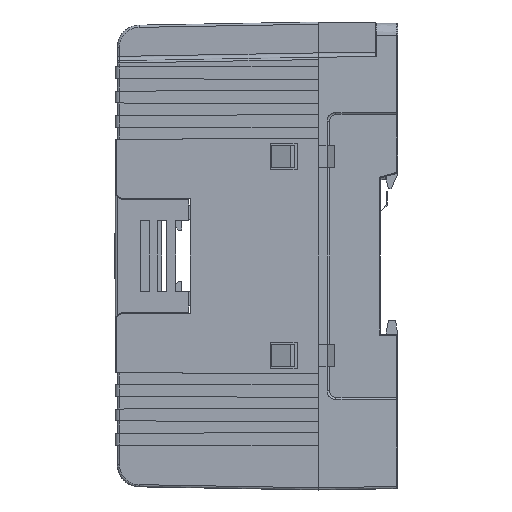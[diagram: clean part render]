
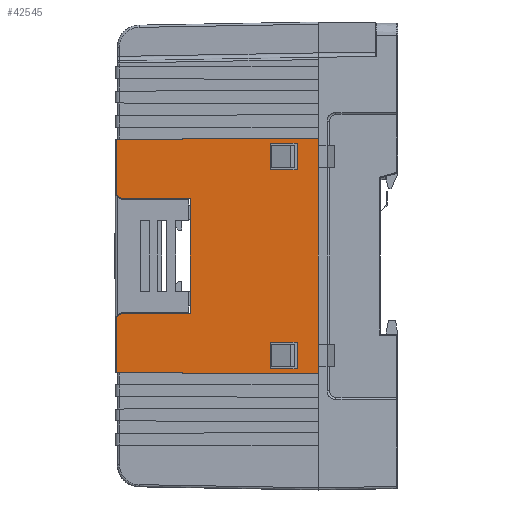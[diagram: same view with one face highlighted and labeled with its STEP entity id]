
A CAD part, left-side view. The second image highlights one B-rep face of the part: STEP entity #42545.
In plain terms, the highlighted planar face has unit normal (-1, 0.018, 0).
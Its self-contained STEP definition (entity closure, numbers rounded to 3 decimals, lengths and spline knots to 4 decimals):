
#23385=CARTESIAN_POINT('',(-2.2562,2.5119,
1.0387));
#23653=CARTESIAN_POINT('',(-2.2562,2.5119,
-1.0438));
#24592=DIRECTION('',(-0.017,-1.,0.));
#24593=VECTOR('',#24592,0.2363);
#24594=CARTESIAN_POINT('',(-2.2803,1.1338,
-1.0065));
#24595=LINE('',#24594,#24593);
#24596=DIRECTION('',(0.,0.,1.));
#24597=VECTOR('',#24596,0.2362);
#24598=CARTESIAN_POINT('',(-2.2844,0.8976,
-1.0065));
#24599=LINE('',#24598,#24597);
#24600=DIRECTION('',(0.017,1.,0.));
#24601=VECTOR('',#24600,0.2363);
#24602=CARTESIAN_POINT('',(-2.2844,0.8976,
-0.7703));
#24603=LINE('',#24602,#24601);
#24604=DIRECTION('',(0.,0.,-1.));
#24605=VECTOR('',#24604,0.2362);
#24606=CARTESIAN_POINT('',(-2.2803,1.1338,
-0.7703));
#24607=LINE('',#24606,#24605);
#24608=DIRECTION('',(-0.017,-1.,0.));
#24609=VECTOR('',#24608,0.2363);
#24610=CARTESIAN_POINT('',(-2.2803,1.1338,
0.7652));
#24611=LINE('',#24610,#24609);
#24612=DIRECTION('',(0.,0.,1.));
#24613=VECTOR('',#24612,0.2362);
#24614=CARTESIAN_POINT('',(-2.2844,0.8976,
0.7652));
#24615=LINE('',#24614,#24613);
#24616=DIRECTION('',(0.017,1.,0.));
#24617=VECTOR('',#24616,0.2363);
#24618=CARTESIAN_POINT('',(-2.2844,0.8976,
1.0014));
#24619=LINE('',#24618,#24617);
#24620=DIRECTION('',(0.,0.,-1.));
#24621=VECTOR('',#24620,0.2362);
#24622=CARTESIAN_POINT('',(-2.2803,1.1338,
1.0014));
#24623=LINE('',#24622,#24621);
#24720=DIRECTION('',(0.,0.,1.));
#24721=VECTOR('',#24720,1.0236);
#24722=CARTESIAN_POINT('',(-2.2678,1.8504,
-0.5144));
#24723=LINE('',#24722,#24721);
#24724=DIRECTION('',(-0.014,-0.806,-0.591));
#24725=VECTOR('',#24724,0.0545);
#24726=CARTESIAN_POINT('',(-2.2562,2.5119,
0.5469));
#24727=LINE('',#24726,#24725);
#24728=DIRECTION('',(0.,0.,-1.));
#24729=VECTOR('',#24728,0.4918);
#24730=CARTESIAN_POINT('',(-2.2562,2.5119,
1.0387));
#24731=LINE('',#24730,#24729);
#24732=DIRECTION('',(0.017,1.,-0.003));
#24733=VECTOR('',#24732,1.8036);
#24734=CARTESIAN_POINT('',(-2.2877,0.7086,
1.045));
#24735=LINE('',#24734,#24733);
#24736=DIRECTION('',(0.,0.,-1.));
#24737=VECTOR('',#24736,2.0951);
#24738=CARTESIAN_POINT('',(-2.2877,0.7086,
1.045));
#24739=LINE('',#24738,#24737);
#24740=DIRECTION('',(0.017,1.,0.003));
#24741=VECTOR('',#24740,1.8036);
#24742=CARTESIAN_POINT('',(-2.2877,0.7086,
-1.0501));
#24743=LINE('',#24742,#24741);
#24744=DIRECTION('',(0.,0.,-1.));
#24745=VECTOR('',#24744,0.4918);
#24746=CARTESIAN_POINT('',(-2.2562,2.5119,
-0.552));
#24747=LINE('',#24746,#24745);
#24748=DIRECTION('',(0.014,0.806,-0.591));
#24749=VECTOR('',#24748,0.0545);
#24750=CARTESIAN_POINT('',(-2.257,2.4679,
-0.5197));
#24751=LINE('',#24750,#24749);
#31861=DIRECTION('',(-0.017,-1.,-0.009));
#31862=VECTOR('',#31861,0.6177);
#31863=CARTESIAN_POINT('',(-2.257,2.4679,
0.5147));
#31864=LINE('',#31863,#31862);
#31929=CARTESIAN_POINT('',(-2.2562,2.5119,
0.5469));
#32003=DIRECTION('',(0.017,1.,-0.009));
#32004=VECTOR('',#32003,0.6177);
#32005=CARTESIAN_POINT('',(-2.2678,1.8504,
-0.5144));
#32006=LINE('',#32005,#32004);
#32047=CARTESIAN_POINT('',(-2.2562,2.5119,
-0.552));
#35121=CARTESIAN_POINT('',(-2.2803,1.1338,
-1.0065));
#35122=CARTESIAN_POINT('',(-2.2844,0.8976,
-1.0065));
#35123=VERTEX_POINT('',#35121);
#35124=VERTEX_POINT('',#35122);
#35125=CARTESIAN_POINT('',(-2.2844,0.8976,
-0.7703));
#35126=VERTEX_POINT('',#35125);
#35127=CARTESIAN_POINT('',(-2.2803,1.1338,
-0.7703));
#35128=VERTEX_POINT('',#35127);
#35129=CARTESIAN_POINT('',(-2.2803,1.1338,
0.7652));
#35130=CARTESIAN_POINT('',(-2.2844,0.8976,
0.7652));
#35131=VERTEX_POINT('',#35129);
#35132=VERTEX_POINT('',#35130);
#35133=CARTESIAN_POINT('',(-2.2844,0.8976,
1.0014));
#35134=VERTEX_POINT('',#35133);
#35135=CARTESIAN_POINT('',(-2.2803,1.1338,
1.0014));
#35136=VERTEX_POINT('',#35135);
#35253=VERTEX_POINT('',#31929);
#35256=VERTEX_POINT('',#32047);
#36833=CARTESIAN_POINT('',(-2.257,2.4679,
0.5147));
#36834=VERTEX_POINT('',#36833);
#36835=CARTESIAN_POINT('',(-2.257,2.4679,
-0.5197));
#36836=VERTEX_POINT('',#36835);
#36837=CARTESIAN_POINT('',(-2.2678,1.8504,
-0.5144));
#36838=CARTESIAN_POINT('',(-2.2678,1.8504,
0.5093));
#36839=VERTEX_POINT('',#36837);
#36840=VERTEX_POINT('',#36838);
#37095=CARTESIAN_POINT('',(-2.2877,0.7086,
-1.0501));
#37097=VERTEX_POINT('',#37095);
#37105=VERTEX_POINT('',#23653);
#37127=CARTESIAN_POINT('',(-2.2877,0.7086,
1.045));
#37129=VERTEX_POINT('',#37127);
#37137=VERTEX_POINT('',#23385);
#42509=CARTESIAN_POINT('',(-2.2877,0.7086,
1.7528));
#42510=DIRECTION('',(1.,-0.017,0.));
#42511=DIRECTION('',(0.,0.,1.));
#42512=AXIS2_PLACEMENT_3D('',#42509,#42510,#42511);
#42513=PLANE('',#42512);
#42515=ORIENTED_EDGE('',*,*,#42514,.T.);
#42517=ORIENTED_EDGE('',*,*,#42516,.F.);
#42519=ORIENTED_EDGE('',*,*,#42518,.F.);
#42521=ORIENTED_EDGE('',*,*,#42520,.F.);
#42522=ORIENTED_EDGE('',*,*,#40329,.F.);
#42523=ORIENTED_EDGE('',*,*,#37720,.T.);
#42524=ORIENTED_EDGE('',*,*,#40688,.T.);
#42526=ORIENTED_EDGE('',*,*,#42525,.F.);
#42528=ORIENTED_EDGE('',*,*,#42527,.F.);
#42530=ORIENTED_EDGE('',*,*,#42529,.F.);
#42531=EDGE_LOOP('',(#42515,#42517,#42519,#42521,#42522,#42523,#42524,#42526,
#42528,#42530));
#42532=FACE_OUTER_BOUND('',#42531,.F.);
#42533=ORIENTED_EDGE('',*,*,#41769,.T.);
#42534=ORIENTED_EDGE('',*,*,#41927,.T.);
#42535=ORIENTED_EDGE('',*,*,#41886,.T.);
#42536=ORIENTED_EDGE('',*,*,#42100,.T.);
#42537=EDGE_LOOP('',(#42533,#42534,#42535,#42536));
#42538=FACE_BOUND('',#42537,.F.);
#42539=ORIENTED_EDGE('',*,*,#42040,.T.);
#42540=ORIENTED_EDGE('',*,*,#42371,.T.);
#42541=ORIENTED_EDGE('',*,*,#42331,.T.);
#42542=ORIENTED_EDGE('',*,*,#42120,.T.);
#42543=EDGE_LOOP('',(#42539,#42540,#42541,#42542));
#42544=FACE_BOUND('',#42543,.F.);
#42545=ADVANCED_FACE('',(#42532,#42538,#42544),#42513,.F.);
#37720=EDGE_CURVE('',#37129,#37097,#24739,.T.);
#40329=EDGE_CURVE('',#37129,#37137,#24735,.T.);
#40688=EDGE_CURVE('',#37097,#37105,#24743,.T.);
#41769=EDGE_CURVE('',#35123,#35124,#24595,.T.);
#41886=EDGE_CURVE('',#35126,#35128,#24603,.T.);
#41927=EDGE_CURVE('',#35124,#35126,#24599,.T.);
#42040=EDGE_CURVE('',#35131,#35132,#24611,.T.);
#42100=EDGE_CURVE('',#35128,#35123,#24607,.T.);
#42120=EDGE_CURVE('',#35136,#35131,#24623,.T.);
#42331=EDGE_CURVE('',#35134,#35136,#24619,.T.);
#42371=EDGE_CURVE('',#35132,#35134,#24615,.T.);
#42514=EDGE_CURVE('',#36839,#36840,#24723,.T.);
#42516=EDGE_CURVE('',#36834,#36840,#31864,.T.);
#42518=EDGE_CURVE('',#35253,#36834,#24727,.T.);
#42520=EDGE_CURVE('',#37137,#35253,#24731,.T.);
#42525=EDGE_CURVE('',#35256,#37105,#24747,.T.);
#42527=EDGE_CURVE('',#36836,#35256,#24751,.T.);
#42529=EDGE_CURVE('',#36839,#36836,#32006,.T.);
